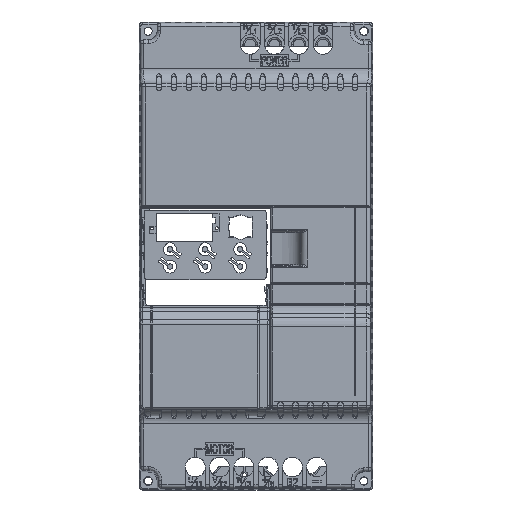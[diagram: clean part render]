
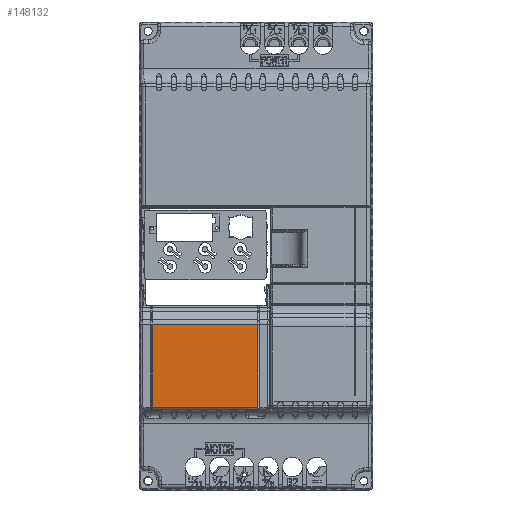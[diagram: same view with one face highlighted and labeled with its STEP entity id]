
A CAD part, top view. The second image highlights one B-rep face of the part: STEP entity #148132.
In plain terms, the highlighted planar face has unit normal (0, 0, 1).
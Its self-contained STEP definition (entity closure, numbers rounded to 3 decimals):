
#7969 = VECTOR ( 'NONE', #153429, 1000. ) ;
#7990 = VECTOR ( 'NONE', #153584, 1000. ) ;
#16415 = EDGE_CURVE ( 'NONE', #129202, #129208, #153425, .T. ) ;
#16470 = EDGE_CURVE ( 'NONE', #129236, #129202, #153580, .T. ) ;
#16520 = EDGE_CURVE ( 'NONE', #129274, #129236, #153779, .T. ) ;
#16525 = EDGE_CURVE ( 'NONE', #129274, #129208, #153883, .T. ) ;
#19738 = ORIENTED_EDGE ( 'NONE', *, *, #16470, .T. ) ;
#19740 = ORIENTED_EDGE ( 'NONE', *, *, #16415, .T. ) ;
#19741 = ORIENTED_EDGE ( 'NONE', *, *, #16525, .F. ) ;
#19742 = ORIENTED_EDGE ( 'NONE', *, *, #16520, .T. ) ;
#53283 = FACE_OUTER_BOUND ( 'NONE', #103881, .T. ) ;
#53300 = AXIS2_PLACEMENT_3D ( 'NONE', #59924, #59927, #59930 ) ;
#59921 = PLANE ( 'NONE',  #53300 ) ;
#59924 = CARTESIAN_POINT ( 'NONE',  ( -28.3, 68.673, 178.1 ) ) ;
#59927 = DIRECTION ( 'NONE',  ( 0., 0., 1. ) ) ;
#59930 = DIRECTION ( 'NONE',  ( 1., 0., 0. ) ) ;
#103881 = EDGE_LOOP ( 'NONE', ( #19738, #19740, #19741, #19742 ) ) ;
#129202 = VERTEX_POINT ( 'NONE', #181464 ) ;
#129208 = VERTEX_POINT ( 'NONE', #181467 ) ;
#129236 = VERTEX_POINT ( 'NONE', #181481 ) ;
#129274 = VERTEX_POINT ( 'NONE', #181500 ) ;
#148132 = ADVANCED_FACE ( 'NONE', ( #53283 ), #59921, .T. ) ;
#153425 = LINE ( 'NONE', #153427, #7969 ) ;
#153427 = CARTESIAN_POINT ( 'NONE',  ( -57.6, 92.672, 178.1 ) ) ;
#153429 = DIRECTION ( 'NONE',  ( 0., -1., 0. ) ) ;
#153580 = LINE ( 'NONE', #153582, #7990 ) ;
#153582 = CARTESIAN_POINT ( 'NONE',  ( -28.3, 91.732, 178.1 ) ) ;
#153584 = DIRECTION ( 'NONE',  ( -1., 0., 0. ) ) ;
#153779 = LINE ( 'NONE', #153781, #224185 ) ;
#153781 = CARTESIAN_POINT ( 'NONE',  ( 1., 68.673, 178.1 ) ) ;
#153783 = DIRECTION ( 'NONE',  ( 0., 1., 0. ) ) ;
#153883 = LINE ( 'NONE', #153885, #224186 ) ;
#153885 = CARTESIAN_POINT ( 'NONE',  ( -63.66, 45.614, 178.1 ) ) ;
#153887 = DIRECTION ( 'NONE',  ( -1., 0., 0. ) ) ;
#181464 = CARTESIAN_POINT ( 'NONE',  ( -57.6, 91.732, 178.1 ) ) ;
#181467 = CARTESIAN_POINT ( 'NONE',  ( -57.6, 45.614, 178.1 ) ) ;
#181481 = CARTESIAN_POINT ( 'NONE',  ( 1., 91.732, 178.1 ) ) ;
#181500 = CARTESIAN_POINT ( 'NONE',  ( 1., 45.614, 178.1 ) ) ;
#224185 = VECTOR ( 'NONE', #153783, 1000. ) ;
#224186 = VECTOR ( 'NONE', #153887, 1000. ) ;
